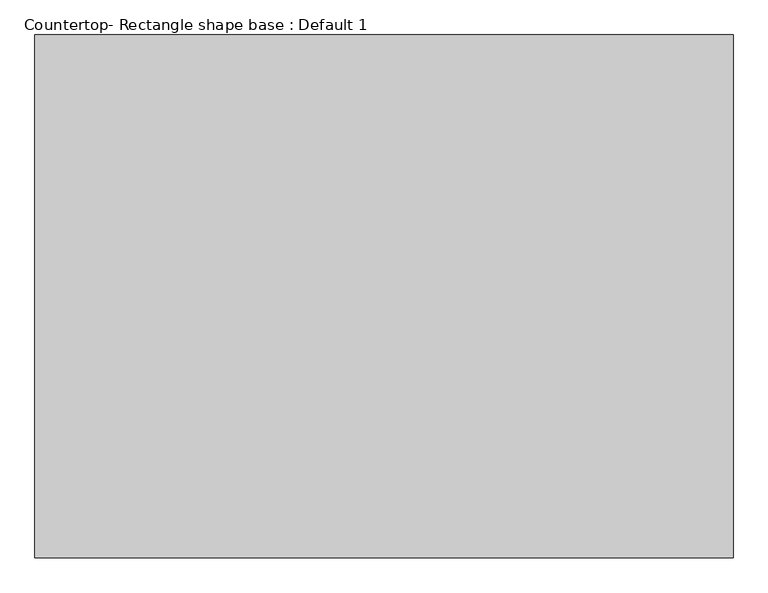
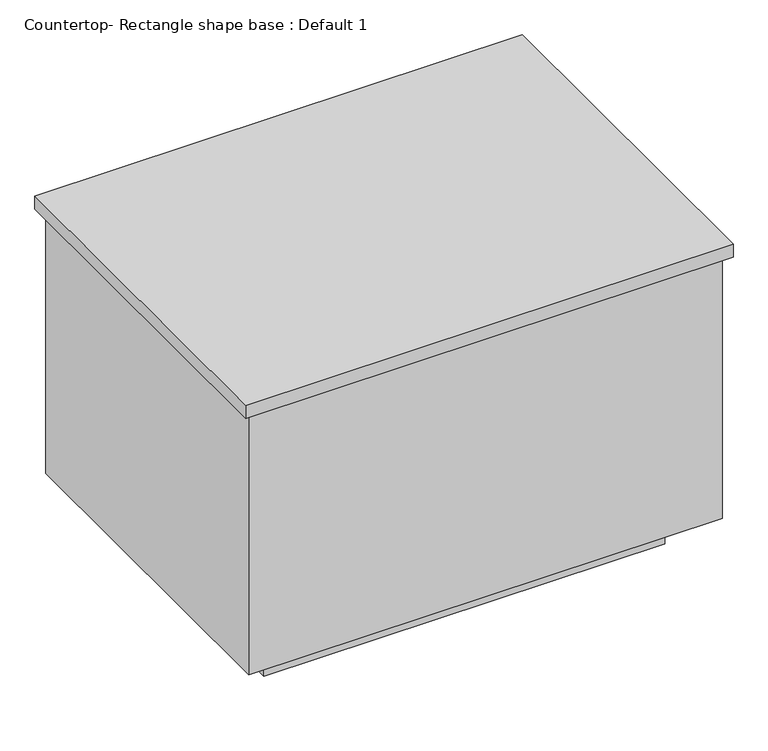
"""IFC4 building model written with IfcOpenShell, lengths in millimetres: proxy geometry, Countertop- Rectangle shape base : Default 1."""

from ifc_helpers import new_model, si_unit, frame, origin, origin_with_axes, place, context, project, spatial, polyline, outline, extrude, source, transform, mapped, element, save


def countertop_rectangle_shape_base_default_1_6354a859(model_context):
    return source(origin(), model_context, "Body", "SweptSolid", [
        extrude(outline(polyline([(82.9011751, -127.4739586), (82.9011751, 889.4739586), (1441.0988249, 889.4739586), (1441.0988249, -127.4739586), (82.9011751, -127.4739586)])), frame((0.0, 0.0, 876.3), z_axis=(0.0, 0.0, 1.0), x_axis=(1.0, 0.0, 0.0)), (0.0, 0.0, 1.0), 38.1),
        extrude(outline(polyline([(1422.0488249, 870.4239586), (1422.0488249, -108.4239586), (101.9511751, -108.4239586), (101.9511751, 870.4239586), (1422.0488249, 870.4239586)])), frame((0.0, 0.0, 101.6), z_axis=(0.0, 0.0, 1.0), x_axis=(1.0, 0.0, 0.0)), (0.0, 0.0, 1.0), 774.7),
        extrude(outline(polyline([(1320.4488249, 768.8239586), (1320.4488249, -6.8239586), (203.5511751, -6.8239586), (203.5511751, 768.8239586), (1320.4488249, 768.8239586)])), origin_with_axes(), (0.0, 0.0, 1.0), 101.6),
    ])


if __name__ == "__main__":
    model = new_model("IFC4")
    model_context = context("Model", 3, world=origin())
    ifc_project = project(units=[si_unit("LENGTHUNIT", "METRE", prefix="MILLI")], contexts=[model_context])
    site = spatial("IfcSite", under=ifc_project)
    building = spatial("IfcBuilding", under=site)
    placement = place(None, origin())
    countertop_rectangle_shape_base_default_1_shape = countertop_rectangle_shape_base_default_1_6354a859(model_context)
    element("IfcBuildingElementProxy", 1, Name="Countertop- Rectangle shape base : Default 1", ObjectType="Countertop- Rectangle shape base : Default 1", at=placement, inside=building, context=model_context, shape_type="MappedRepresentation", body=[
        mapped(countertop_rectangle_shape_base_default_1_shape, transform((0.0, 0.0, 0.0), x_axis=(1.0, 0.0, 0.0), y_axis=(0.0, 1.0, 0.0), z_axis=(0.0, 0.0, 1.0))),
    ])
    save(model, "model.ifc")
